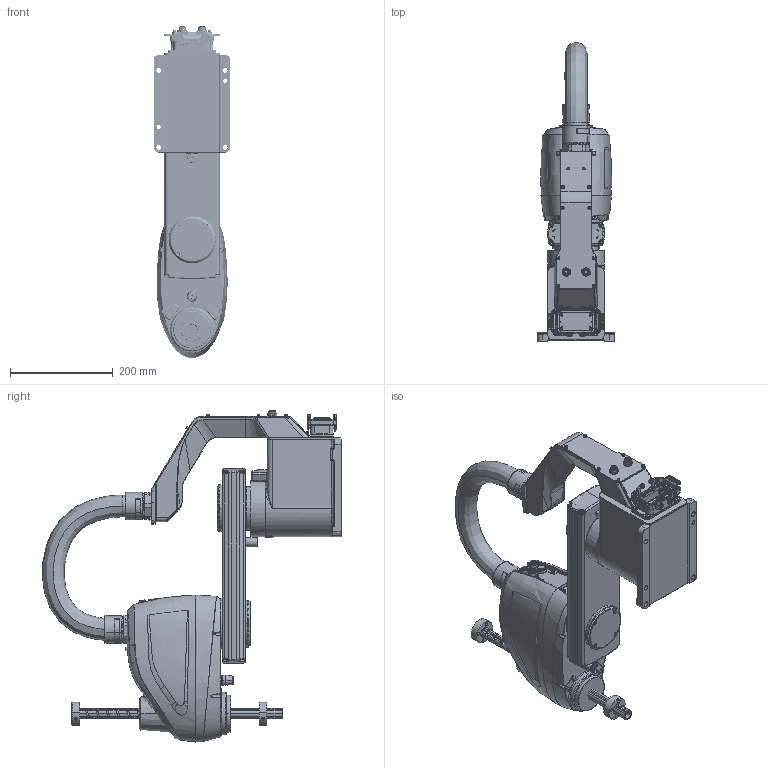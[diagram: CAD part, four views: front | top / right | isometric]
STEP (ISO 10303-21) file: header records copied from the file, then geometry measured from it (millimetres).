
FILE_DESCRIPTION (( 'STEP AP214' ), '1' );
FILE_NAME ('MB07SC-400.STEP', '2026-01-17T01:49:30', ( '' ), ( '' ), 'SwSTEP 2.0', 'SolidWorks 2020', '' );
FILE_SCHEMA (( 'AUTOMOTIVE_DESIGN' ));
Length unit declared in the file: millimetre
Products named in the file (5): MB07SC-440000 J4郪璃; MB07SC-400; MB07SC-420000 J2郪璃; MB07SC-430000 J3郪璃; MB07SC-410000 J1軞傖
Assembly tree (4 placements, depth 2):
  MB07SC-400
    MB07SC-410000 J1軞傖
    MB07SC-420000 J2郪璃
    MB07SC-430000 J3郪璃
    MB07SC-440000 J4郪璃
Bounding box: 150 x 583.03 x 646.88 mm (x, y, z)
Volume: 12011002.5 mm3; surface area: 849818.6 mm2
Topology: 4 solids, 10 shells, 4349 faces, 11599 edges, 7409 vertices
Faces by surface type: cylinder 1611, plane 1495, bspline 952, cone 289, torus 2
Entity records: 232791 total; most frequent: CARTESIAN_POINT 118026, ORIENTED_EDGE 22812, DIRECTION 17888, EDGE_CURVE 11406, VERTEX_POINT 7409, AXIS2_PLACEMENT_3D 6656, EDGE_LOOP 4813, LINE 4576
